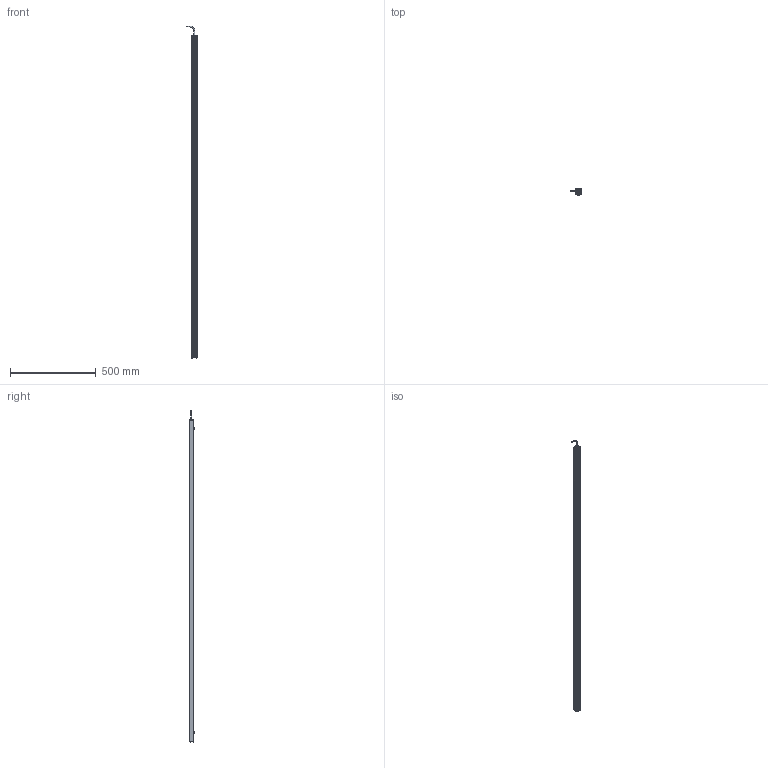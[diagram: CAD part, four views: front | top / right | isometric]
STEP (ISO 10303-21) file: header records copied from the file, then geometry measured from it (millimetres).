
FILE_DESCRIPTION (( 'STEP AP214' ), '1' );
FILE_NAME ('AL150XXXX_AL150432.stp', '2021-04-29T15:42:03', ( '' ), ( '' ), 'SwSTEP 2.0', 'SolidWorks 2018', '' );
FILE_SCHEMA (( 'AUTOMOTIVE_DESIGN' ));
Length unit declared in the file: inch
Products named in the file (12): 093145_93701A253; 116-02-006; 150-03-006-XXXX_150-03-006-432; 092408_TRUNCATED; 1157 (no strap); Part1^AL150XXXX; Part2^AL150XXXX; 116-02-007; HN-M6_90592A016; CHM6x8_91460A312; 150-01-005-XXX_150-01-005-432; AL150XXXX_AL150432
Assembly tree (18 placements, depth 2):
  Part1^AL150XXXX
  Part2^AL150XXXX
  AL150XXXX_AL150432
    150-01-005-XXX_150-01-005-432
    116-02-006
    093145_93701A253  x8
    HN-M6_90592A016  x2
    CHM6x8_91460A312  x2
    150-03-006-XXXX_150-03-006-432
    116-02-007
    1157 (no strap)
    092408_TRUNCATED
Bounding box: 60.68 x 33.84 x 1941.37 mm (x, y, z)
Volume: 583107.3 mm3; surface area: 615229.4 mm2
Topology: 26 solids, 26 shells, 1306 faces, 3436 edges, 2127 vertices
Faces by surface type: cylinder 805, cone 249, plane 153, torus 59, bspline 32, sphere 8
Entity records: 18285 total; most frequent: CARTESIAN_POINT 6069, ORIENTED_EDGE 2496, DIRECTION 2311, EDGE_CURVE 1248, AXIS2_PLACEMENT_3D 881, VERTEX_POINT 800, LINE 549, VECTOR 549
